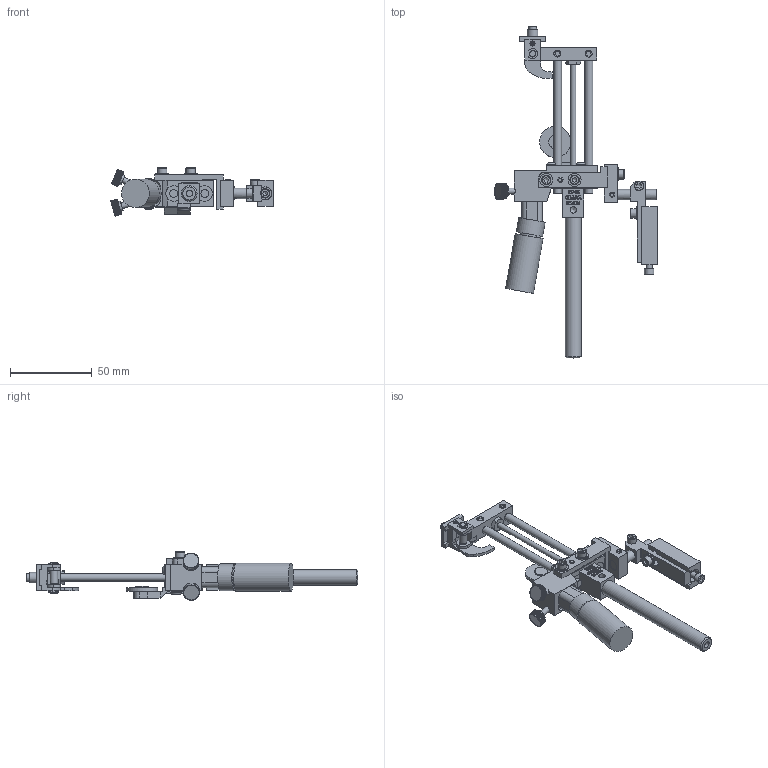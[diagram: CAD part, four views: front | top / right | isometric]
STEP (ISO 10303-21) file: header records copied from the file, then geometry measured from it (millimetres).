
FILE_DESCRIPTION((''),'2;1');
FILE_NAME('C:\Documents and Settings\Ron\My Documents\Inventor\Sprinter Drawing\Machines in Inventor\Model 22\Dot\3-sixth\Ext Str\E1\Brkt\Ext\Model 22 ES 1 3-16 dot ext w brkt.stp','2009-01-14T10:05:49',('Ron'),(''),'Autodesk Inventor 2008','Autodesk Inventor 2008','');
FILE_SCHEMA(('AUTOMOTIVE_DESIGN { 1 0 10303 214 1 1 1 1 }'));
Length unit declared in the file: inch
Products named in the file (1): Model 22 ES 1 3-16 dot ext w brkt
Bounding box: 99.17 x 202.45 x 29.56 mm (x, y, z)
Volume: 6405.6 mm3; surface area: 36247.1 mm2
Topology: 13 solids, 14 shells, 4736 faces, 13143 edges, 8718 vertices
Faces by surface type: plane 2892, bspline 1291, cylinder 482, cone 57, torus 14
Full cylindrical faces by diameter (mm): 2.845 x3, 2.946 x2, 3.175 x4, 3.505 x7, 3.556 x2, 3.658 x1, 3.876 x1, 3.962 x9, 4.064 x1, 4.166 x3, 4.648 x2, 4.699 x1, 4.75 x1, 4.763 x2, 4.775 x3, 4.788 x1, 5.41 x2, 5.74 x6, 6.096 x1, 6.325 x2, 6.35 x4, 6.477 x1, 6.655 x1, 7.925 x4, 7.938 x1, 8.128 x1, 9.462 x1, 9.525 x1, 10.922 x1, 11.938 x1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
Entity records: 166024 total; most frequent: CARTESIAN_POINT 49560, ORIENTED_EDGE 25728, DIRECTION 18387, EDGE_CURVE 12864, VECTOR 9089, LINE 9089, VERTEX_POINT 8613, EDGE_LOOP 5265
